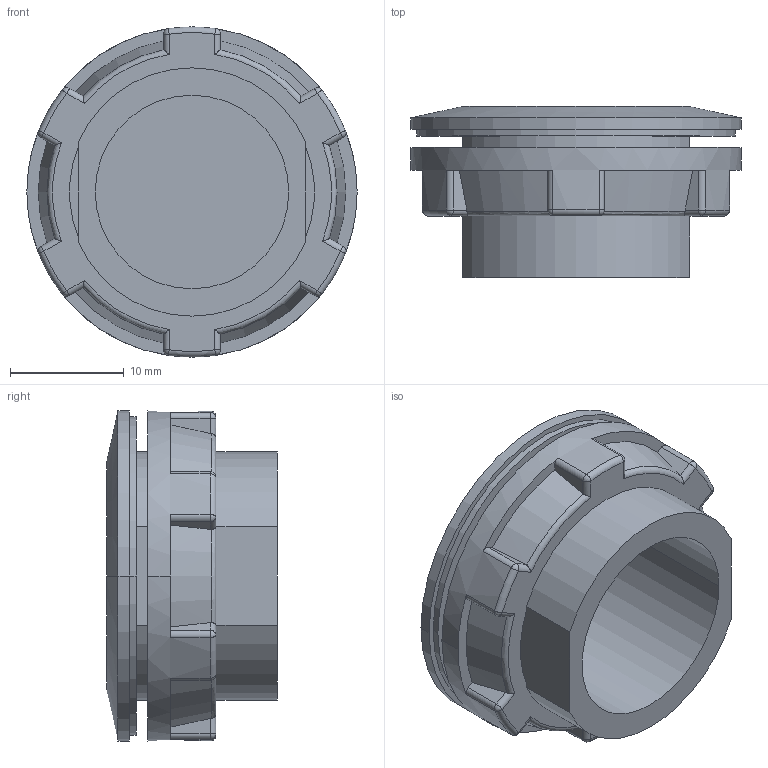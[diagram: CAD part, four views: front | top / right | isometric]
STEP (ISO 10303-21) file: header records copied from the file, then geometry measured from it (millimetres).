
FILE_DESCRIPTION((''),'2;1');
FILE_NAME('F-52','2023-10-27T',('Administrator'),('zyb.com'),'PRO/ENGINEER BY PARAMETRIC TECHNOLOGY CORPORATION, 2010280','PRO/ENGINEER BY PARAMETRIC TECHNOLOGY CORPORATION, 2010280','');
FILE_SCHEMA(('CONFIG_CONTROL_DESIGN','SHAPE_APPEARANCE_LAYERS_GROUPS'));
Length unit declared in the file: millimetre
Products named in the file (1): F-52
Bounding box: 29 x 15 x 29 mm (x, y, z)
Volume: 4337.8 mm3; surface area: 3999.8 mm2
Topology: 1 solids, 1 shells, 100 faces, 250 edges, 154 vertices
Faces by surface type: cylinder 40, plane 28, torus 12, sphere 12, cone 8
Entity records: 3217 total; most frequent: CARTESIAN_POINT 696, DIRECTION 532, ORIENTED_EDGE 500, EDGE_CURVE 250, AXIS2_PLACEMENT_3D 218, VERTEX_POINT 154, CIRCLE 118, EDGE_LOOP 106
